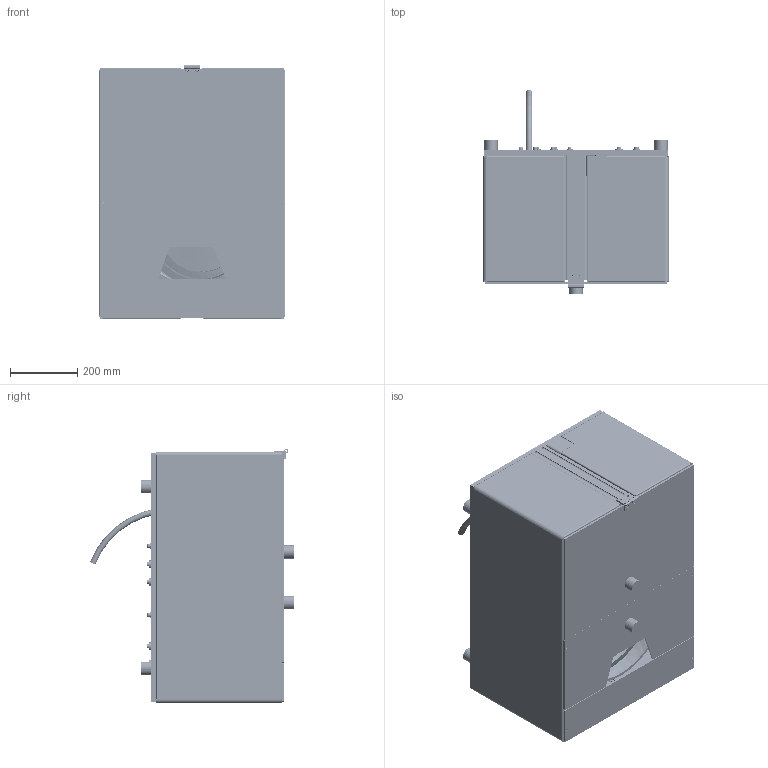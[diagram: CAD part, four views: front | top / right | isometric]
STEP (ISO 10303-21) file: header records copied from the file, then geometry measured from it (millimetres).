
FILE_DESCRIPTION(/* description */ (''),/* implementation_level */ '2;1');
FILE_NAME(/* name */ 'C:\Users\Wolf\Desktop\PDF\MKT-ZSE4000.stp',/* time_stamp */ '2018-09-13T15:03:29+02:00',/* author */ ('Wolf'),/* organization */ (''),/* preprocessor_version */ 'ST-DEVELOPER v17',/* originating_system */ 'Autodesk Inventor 2018',/* authorisation */ '');
FILE_SCHEMA (('AUTOMOTIVE_DESIGN { 1 0 10303 214 3 1 1 }'));
Products named in the file (1): MKT-ZSE4000.ipt
Bounding box: 554 x 610.02 x 758.25 mm (x, y, z)
Volume: 28367419.8 mm3; surface area: 5972750 mm2
Topology: 16 solids, 16 shells, 16804 faces, 48178 edges, 31914 vertices
Faces by surface type: plane 13562, cylinder 1904, bspline 669, cone 402, torus 233, sphere 34
Full cylindrical faces by diameter (mm): 1 x9, 1.5 x8, 1.6 x4, 2.459 x4, 3 x4, 3.2 x3, 3.242 x16, 4 x37, 4.134 x12, 4.3 x16, 4.5 x13, 4.567 x1, 4.917 x22, 5 x33, 5.1 x2, 5.38 x10, 5.4 x2, 5.5 x6, 5.8 x1, 6 x24, 6.3 x2, 6.4 x5, 6.5 x2, 6.6 x10, 6.647 x15, 6.8 x1, 7 x9, 7.5 x8, 7.9 x1, 8 x18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
Entity records: 629441 total; most frequent: CARTESIAN_POINT 173038, ORIENTED_EDGE 96178, DIRECTION 84035, EDGE_CURVE 48089, LINE 39659, VECTOR 39659, VERTEX_POINT 31913, AXIS2_PLACEMENT_3D 22188
